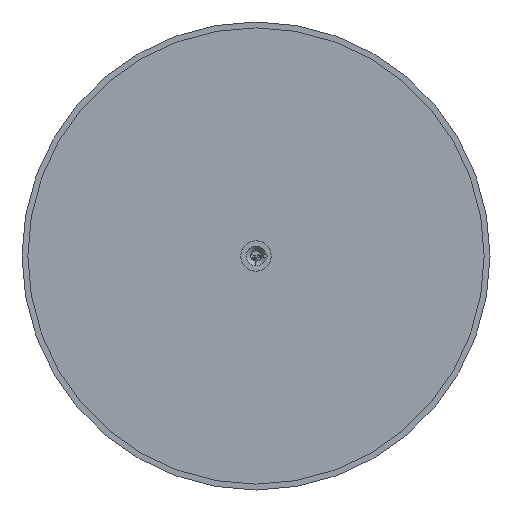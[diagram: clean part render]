
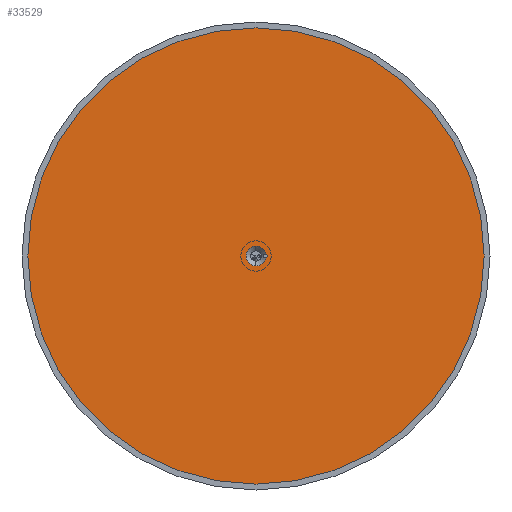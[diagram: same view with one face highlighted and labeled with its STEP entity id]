
A CAD part, front view. The second image highlights one B-rep face of the part: STEP entity #33529.
In plain terms, the highlighted planar face has unit normal (0, -1, 0).
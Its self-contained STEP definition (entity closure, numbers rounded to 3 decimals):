
#79 = CARTESIAN_POINT ( 'NONE',  ( -18.068, -1344.685, -30.807 ) ) ;
#117 = PLANE ( 'NONE',  #67731 ) ;
#2733 = AXIS2_PLACEMENT_3D ( 'NONE', #25214, #75758, #52869 ) ;
#5465 = CARTESIAN_POINT ( 'NONE',  ( -26.068, -1344.685, -30.807 ) ) ;
#9693 = DIRECTION ( 'NONE',  ( 0., 1., 0. ) ) ;
#10324 = ORIENTED_EDGE ( 'NONE', *, *, #45880, .T. ) ;
#10599 = DIRECTION ( 'NONE',  ( 0., 0., 1. ) ) ;
#12882 = EDGE_CURVE ( 'NONE', #26413, #78920, #57311, .T. ) ;
#15275 = CIRCLE ( 'NONE', #55679, 195. ) ;
#15580 = CARTESIAN_POINT ( 'NONE',  ( -26.068, -1344.685, -22.307 ) ) ;
#17973 = DIRECTION ( 'NONE',  ( 0., 1., 0. ) ) ;
#18442 = DIRECTION ( 'NONE',  ( 0., 0., 1. ) ) ;
#18632 = VERTEX_POINT ( 'NONE', #84270 ) ;
#19259 = EDGE_LOOP ( 'NONE', ( #47497, #25172 ) ) ;
#19962 = CIRCLE ( 'NONE', #31947, 8.5 ) ;
#22938 = AXIS2_PLACEMENT_3D ( 'NONE', #79, #28643, #77350 ) ;
#24099 = ORIENTED_EDGE ( 'NONE', *, *, #12882, .T. ) ;
#24609 = ORIENTED_EDGE ( 'NONE', *, *, #75836, .T. ) ;
#25172 = ORIENTED_EDGE ( 'NONE', *, *, #40461, .F. ) ;
#25214 = CARTESIAN_POINT ( 'NONE',  ( -26.068, -1344.685, -30.807 ) ) ;
#25840 = CARTESIAN_POINT ( 'NONE',  ( -26.068, -1344.685, -39.307 ) ) ;
#26106 = VERTEX_POINT ( 'NONE', #25840 ) ;
#26413 = VERTEX_POINT ( 'NONE', #38391 ) ;
#27363 = ORIENTED_EDGE ( 'NONE', *, *, #86651, .T. ) ;
#27760 = DIRECTION ( 'NONE',  ( 0., 1., 0. ) ) ;
#28214 = FACE_BOUND ( 'NONE', #48685, .T. ) ;
#28643 = DIRECTION ( 'NONE',  ( 0., 1., 0. ) ) ;
#30778 = CARTESIAN_POINT ( 'NONE',  ( -26.068, -1344.685, -30.807 ) ) ;
#31947 = AXIS2_PLACEMENT_3D ( 'NONE', #86823, #51264, #37210 ) ;
#33529 = ADVANCED_FACE ( 'NONE', ( #28214, #83940 ), #117, .F. ) ;
#37210 = DIRECTION ( 'NONE',  ( 0., 0., 1. ) ) ;
#38391 = CARTESIAN_POINT ( 'NONE',  ( -17.722, -1344.685, -29.194 ) ) ;
#39867 = CIRCLE ( 'NONE', #44337, 8.5 ) ;
#40461 = EDGE_CURVE ( 'NONE', #18632, #61900, #70039, .T. ) ;
#44337 = AXIS2_PLACEMENT_3D ( 'NONE', #5465, #91103, #48531 ) ;
#45175 = CARTESIAN_POINT ( 'NONE',  ( -26.068, -1344.685, -30.807 ) ) ;
#45880 = EDGE_CURVE ( 'NONE', #61866, #26413, #65243, .T. ) ;
#47497 = ORIENTED_EDGE ( 'NONE', *, *, #68888, .F. ) ;
#48531 = DIRECTION ( 'NONE',  ( 0., 0., 1. ) ) ;
#48685 = EDGE_LOOP ( 'NONE', ( #27363, #24609, #10324, #24099 ) ) ;
#51264 = DIRECTION ( 'NONE',  ( 0., 1., 0. ) ) ;
#52869 = DIRECTION ( 'NONE',  ( 0., 0., 1. ) ) ;
#55679 = AXIS2_PLACEMENT_3D ( 'NONE', #30778, #9693, #10599 ) ;
#56784 = CARTESIAN_POINT ( 'NONE',  ( -26.068, -1344.685, -30.807 ) ) ;
#57311 = CIRCLE ( 'NONE', #22938, 1.65 ) ;
#59148 = CARTESIAN_POINT ( 'NONE',  ( -26.068, -1344.685, -225.807 ) ) ;
#61866 = VERTEX_POINT ( 'NONE', #15580 ) ;
#61900 = VERTEX_POINT ( 'NONE', #59148 ) ;
#65243 = CIRCLE ( 'NONE', #80123, 8.5 ) ;
#67731 = AXIS2_PLACEMENT_3D ( 'NONE', #56784, #27760, #84865 ) ;
#68888 = EDGE_CURVE ( 'NONE', #61900, #18632, #15275, .T. ) ;
#70039 = CIRCLE ( 'NONE', #2733, 195. ) ;
#75758 = DIRECTION ( 'NONE',  ( 0., 1., 0. ) ) ;
#75836 = EDGE_CURVE ( 'NONE', #26106, #61866, #19962, .T. ) ;
#77350 = DIRECTION ( 'NONE',  ( 0., 0., 1. ) ) ;
#78920 = VERTEX_POINT ( 'NONE', #83378 ) ;
#80123 = AXIS2_PLACEMENT_3D ( 'NONE', #45175, #17973, #18442 ) ;
#83378 = CARTESIAN_POINT ( 'NONE',  ( -17.722, -1344.685, -32.421 ) ) ;
#83940 = FACE_OUTER_BOUND ( 'NONE', #19259, .T. ) ;
#84270 = CARTESIAN_POINT ( 'NONE',  ( -26.068, -1344.685, 164.193 ) ) ;
#84865 = DIRECTION ( 'NONE',  ( 0., 0., 1. ) ) ;
#86651 = EDGE_CURVE ( 'NONE', #78920, #26106, #39867, .T. ) ;
#86823 = CARTESIAN_POINT ( 'NONE',  ( -26.068, -1344.685, -30.807 ) ) ;
#91103 = DIRECTION ( 'NONE',  ( 0., 1., 0. ) ) ;
